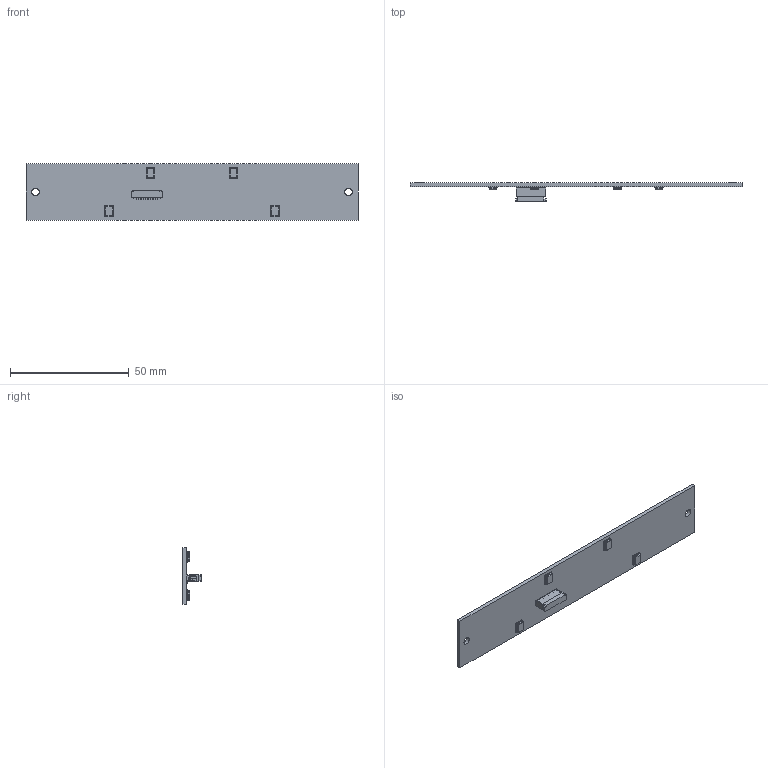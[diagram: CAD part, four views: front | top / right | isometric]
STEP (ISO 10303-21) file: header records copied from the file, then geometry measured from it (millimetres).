
FILE_DESCRIPTION((''),'2;1');
FILE_NAME('MIC_PCB_ASSY_ASM','2020-08-11T',('G6003023'),(''),'PRO/ENGINEER BY PARAMETRIC TECHNOLOGY CORPORATION, 2013150','PRO/ENGINEER BY PARAMETRIC TECHNOLOGY CORPORATION, 2013150','');
FILE_SCHEMA(('CONFIG_CONTROL_DESIGN'));
Length unit declared in the file: millimetre
Products named in the file (18): MIC_PCB; SPM0687LR5X_REV_1_SW; MSBR-13-001; MSBR-12-001; MSBR-11-001; MSBR-10-001; MSBR-9-001; MSBR-8-001; MSBR-7-001; MSBR-6-001; MSBR-5-001; MSBR-4-001; MSBR-3-001; MSBR-2-001; MSBR-1-001; HS6110E-10PIN_ASM; CONNECTOR_PLUG-10PIN; MIC_PCB_ASSY_ASM
Assembly tree (20 placements, depth 3):
  MIC_PCB_ASSY_ASM
    MIC_PCB
    SPM0687LR5X_REV_1_SW  x4
    HS6110E-10PIN_ASM
      MSBR-13-001
      MSBR-12-001
      MSBR-11-001
      MSBR-10-001
      MSBR-9-001
      MSBR-8-001
      MSBR-7-001
      MSBR-6-001
      MSBR-5-001
      MSBR-4-001
      MSBR-3-001
      MSBR-2-001
      MSBR-1-001
    CONNECTOR_PLUG-10PIN
Bounding box: 140 x 7.8 x 24 mm (x, y, z)
Volume: 5627.4 mm3; surface area: 8099.5 mm2
Topology: 19 solids, 19 shells, 1246 faces, 3421 edges, 2254 vertices
Faces by surface type: plane 762, cylinder 372, bspline 112
Entity records: 33305 total; most frequent: CARTESIAN_POINT 6357, ORIENTED_EDGE 5666, DIRECTION 5471, EDGE_CURVE 2833, VECTOR 2185, LINE 2185, VERTEX_POINT 1882, AXIS2_PLACEMENT_3D 1643
